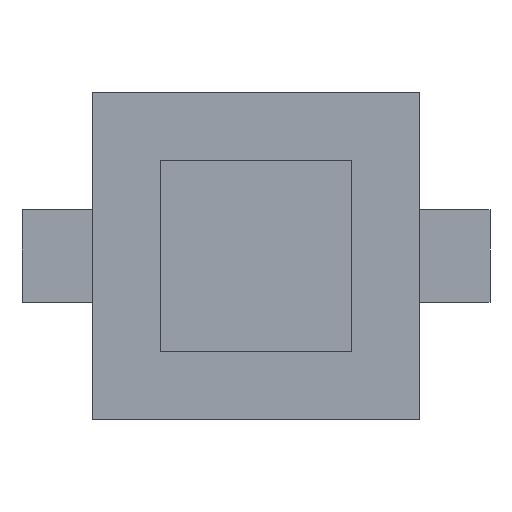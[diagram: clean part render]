
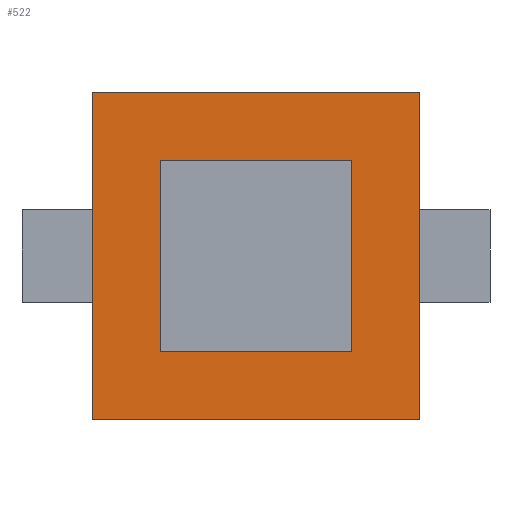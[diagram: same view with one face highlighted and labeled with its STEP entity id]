
A CAD part, front view. The second image highlights one B-rep face of the part: STEP entity #522.
In plain terms, the highlighted planar face has unit normal (0, -1, 0).
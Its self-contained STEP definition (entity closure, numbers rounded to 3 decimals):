
#7 = EDGE_CURVE ( 'NONE', #1072, #1338, #1693, .T. ) ;
#40 = EDGE_LOOP ( 'NONE', ( #1790, #1242, #511, #1577 ) ) ;
#48 = VERTEX_POINT ( 'NONE', #173 ) ;
#57 = EDGE_CURVE ( 'NONE', #1338, #1659, #182, .T. ) ;
#90 = ORIENTED_EDGE ( 'NONE', *, *, #427, .F. ) ;
#151 = CARTESIAN_POINT ( 'NONE',  ( 59.989, 0., 60.02 ) ) ;
#155 = DIRECTION ( 'NONE',  ( -1., 0., 0. ) ) ;
#172 = VECTOR ( 'NONE', #1102, 1000. ) ;
#173 = CARTESIAN_POINT ( 'NONE',  ( 59.989, 0., -59.983 ) ) ;
#176 = CARTESIAN_POINT ( 'NONE',  ( -60.002, 0., 60.02 ) ) ;
#182 = LINE ( 'NONE', #176, #1656 ) ;
#227 = CARTESIAN_POINT ( 'NONE',  ( 35., 0., -35. ) ) ;
#246 = VERTEX_POINT ( 'NONE', #642 ) ;
#248 = VERTEX_POINT ( 'NONE', #1082 ) ;
#260 = ORIENTED_EDGE ( 'NONE', *, *, #1121, .F. ) ;
#264 = VECTOR ( 'NONE', #1395, 1000. ) ;
#427 = EDGE_CURVE ( 'NONE', #1243, #248, #777, .T. ) ;
#429 = CARTESIAN_POINT ( 'NONE',  ( -35., 0., -35. ) ) ;
#434 = DIRECTION ( 'NONE',  ( 0., 0., -1. ) ) ;
#440 = EDGE_CURVE ( 'NONE', #1554, #246, #1019, .T. ) ;
#455 = EDGE_CURVE ( 'NONE', #246, #1243, #1060, .T. ) ;
#496 = FACE_BOUND ( 'NONE', #531, .T. ) ;
#511 = ORIENTED_EDGE ( 'NONE', *, *, #57, .T. ) ;
#522 = ADVANCED_FACE ( 'NONE', ( #496, #1548 ), #1793, .T. ) ;
#531 = EDGE_LOOP ( 'NONE', ( #90, #968, #1714, #260 ) ) ;
#536 = CARTESIAN_POINT ( 'NONE',  ( -35., 0., 35. ) ) ;
#642 = CARTESIAN_POINT ( 'NONE',  ( 35., 0., 35. ) ) ;
#701 = DIRECTION ( 'NONE',  ( 1., 0., 0. ) ) ;
#719 = DIRECTION ( 'NONE',  ( 0., 0., 1. ) ) ;
#767 = CARTESIAN_POINT ( 'NONE',  ( -60.002, 0., -59.983 ) ) ;
#777 = LINE ( 'NONE', #936, #1762 ) ;
#790 = CARTESIAN_POINT ( 'NONE',  ( 59.989, 0., 60.02 ) ) ;
#798 = EDGE_CURVE ( 'NONE', #48, #1072, #996, .T. ) ;
#808 = DIRECTION ( 'NONE',  ( 0., 0., -1. ) ) ;
#921 = CARTESIAN_POINT ( 'NONE',  ( -60.002, 0., -59.983 ) ) ;
#936 = CARTESIAN_POINT ( 'NONE',  ( -35., 0., 35. ) ) ;
#958 = CARTESIAN_POINT ( 'NONE',  ( -35., 0., 35. ) ) ;
#968 = ORIENTED_EDGE ( 'NONE', *, *, #455, .F. ) ;
#996 = LINE ( 'NONE', #1129, #1095 ) ;
#1019 = LINE ( 'NONE', #1717, #172 ) ;
#1060 = LINE ( 'NONE', #958, #1461 ) ;
#1072 = VERTEX_POINT ( 'NONE', #790 ) ;
#1082 = CARTESIAN_POINT ( 'NONE',  ( -35., 0., -35. ) ) ;
#1090 = DIRECTION ( 'NONE',  ( -1., 0., 0. ) ) ;
#1095 = VECTOR ( 'NONE', #719, 1000. ) ;
#1102 = DIRECTION ( 'NONE',  ( 0., 0., 1. ) ) ;
#1121 = EDGE_CURVE ( 'NONE', #248, #1554, #1221, .T. ) ;
#1129 = CARTESIAN_POINT ( 'NONE',  ( 59.989, 0., -59.983 ) ) ;
#1168 = CARTESIAN_POINT ( 'NONE',  ( 0., 0., 0. ) ) ;
#1221 = LINE ( 'NONE', #429, #1621 ) ;
#1226 = AXIS2_PLACEMENT_3D ( 'NONE', #1168, #1680, #1682 ) ;
#1242 = ORIENTED_EDGE ( 'NONE', *, *, #7, .T. ) ;
#1243 = VERTEX_POINT ( 'NONE', #536 ) ;
#1326 = CARTESIAN_POINT ( 'NONE',  ( -60.002, 0., 60.02 ) ) ;
#1338 = VERTEX_POINT ( 'NONE', #1326 ) ;
#1395 = DIRECTION ( 'NONE',  ( 1., 0., 0. ) ) ;
#1405 = VECTOR ( 'NONE', #155, 1000. ) ;
#1461 = VECTOR ( 'NONE', #1090, 1000. ) ;
#1548 = FACE_OUTER_BOUND ( 'NONE', #40, .T. ) ;
#1554 = VERTEX_POINT ( 'NONE', #227 ) ;
#1577 = ORIENTED_EDGE ( 'NONE', *, *, #1650, .T. ) ;
#1621 = VECTOR ( 'NONE', #701, 1000. ) ;
#1650 = EDGE_CURVE ( 'NONE', #1659, #48, #1753, .T. ) ;
#1656 = VECTOR ( 'NONE', #434, 1000. ) ;
#1659 = VERTEX_POINT ( 'NONE', #921 ) ;
#1680 = DIRECTION ( 'NONE',  ( 0., -1., 0. ) ) ;
#1682 = DIRECTION ( 'NONE',  ( 0., 0., -1. ) ) ;
#1693 = LINE ( 'NONE', #151, #1405 ) ;
#1714 = ORIENTED_EDGE ( 'NONE', *, *, #440, .F. ) ;
#1717 = CARTESIAN_POINT ( 'NONE',  ( 35., 0., 35. ) ) ;
#1753 = LINE ( 'NONE', #767, #264 ) ;
#1762 = VECTOR ( 'NONE', #808, 1000. ) ;
#1790 = ORIENTED_EDGE ( 'NONE', *, *, #798, .T. ) ;
#1793 = PLANE ( 'NONE',  #1226 ) ;
